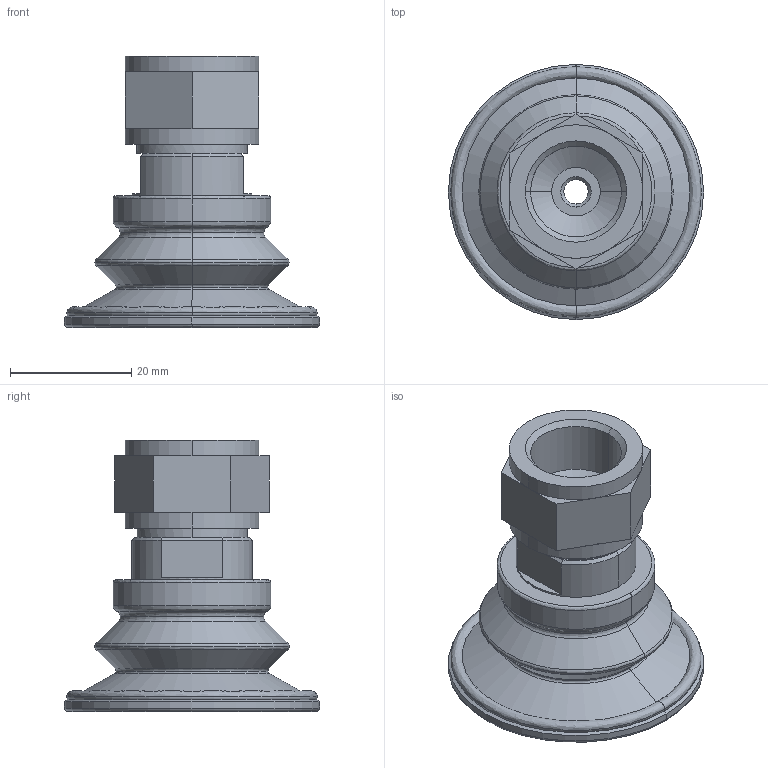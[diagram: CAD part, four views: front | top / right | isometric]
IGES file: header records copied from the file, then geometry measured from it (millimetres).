
Start section: 3D InterOp IGES (v. 2018 1.0.2), Spatial Corp. Copyright (c) 1999-2017.
Global section: file name: schmalz_10_01_06_00924_et4msbju8i2fpl6wt8zxl4lq4.igs; native system: Spatial Corp.; preprocessor: 3D InterOp ACIS/IGES; author: TraceParts; organization: TraceParts S.A.; date: 20181018.033014; units: millimetre
Bounding box: 42 x 42 x 44.77 mm (x, y, z)
Surface area: 8600.7 mm2 (no closed solid volume)
Topology: 0 solids, 0 shells, 123 faces, 516 edges, 516 vertices
Faces by surface type: revolution 84, extrusion 39
